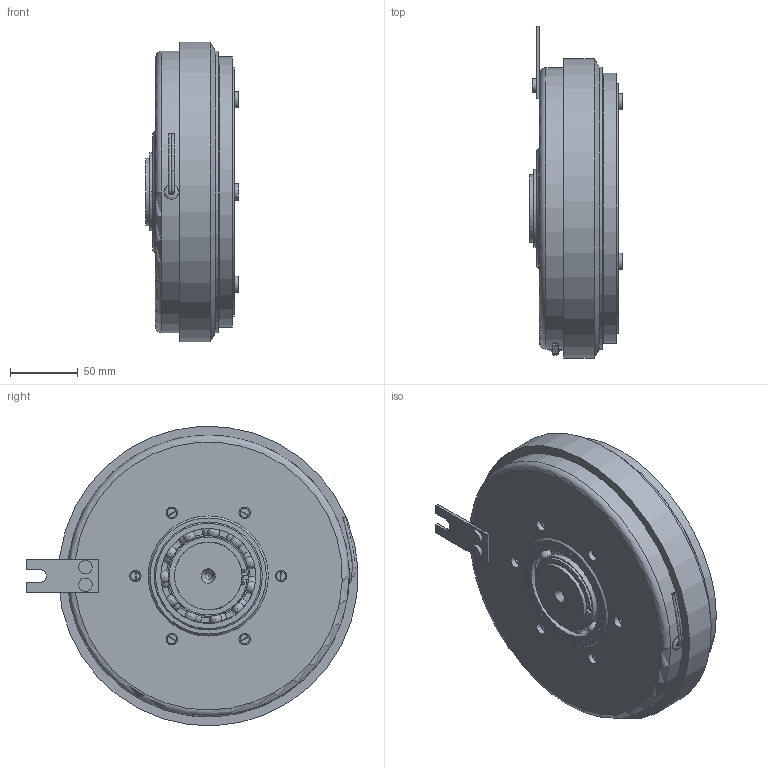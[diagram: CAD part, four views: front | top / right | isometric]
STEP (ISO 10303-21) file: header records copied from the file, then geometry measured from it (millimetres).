
FILE_DESCRIPTION(/* description */ (''),/* implementation_level */ '2;1');
FILE_NAME(/* name */ 'X:\INVENTOR\DISEGNI\08_Freni_Friz_Elettmag_Monodisco\08_25 EMSL\08_25_210_01 EMSL210\08_25_210_01 EMSL210@STEP.stp',/* time_stamp */ '2023-03-22T09:49:00+01:00',/* author */ ('alessio'),/* organization */ (''),/* preprocessor_version */ 'ST-DEVELOPER v18.1',/* originating_system */ 'Autodesk Inventor 2021',/* authorisation */ '');
FILE_SCHEMA (('AUTOMOTIVE_DESIGN { 1 0 10303 214 3 1 1 }'));
Length unit declared in the file: millimetre
Products named in the file (1): 08_25_210_01 EMSL210
Bounding box: 68.5 x 245.89 x 221.79 mm (x, y, z)
Volume: 1299420.9 mm3; surface area: 349037.4 mm2
Topology: 3 solids, 9 shells, 401 faces, 1094 edges, 694 vertices
Faces by surface type: cylinder 135, plane 112, cone 70, torus 59, sphere 22, bspline 3
Full cylindrical faces by diameter (mm): 2.5 x2, 3 x5, 4 x1, 5 x2, 6 x2, 6.647 x6, 7 x8, 8.1 x3, 8.2 x3, 8.5 x6, 9 x1, 10 x2, 10.2 x3, 11 x3, 12 x3, 25 x3, 47 x1, 50 x4, 59.6 x4, 62 x1, 70.4 x4, 80 x4, 89 x1, 100 x2, 107 x1, 108 x1, 120.5 x1, 121 x1, 121.8 x1, 122 x1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
Entity records: 15498 total; most frequent: CARTESIAN_POINT 4967, DIRECTION 2267, ORIENTED_EDGE 2104, EDGE_CURVE 1052, AXIS2_PLACEMENT_3D 1004, VERTEX_POINT 695, CIRCLE 605, EDGE_LOOP 549
